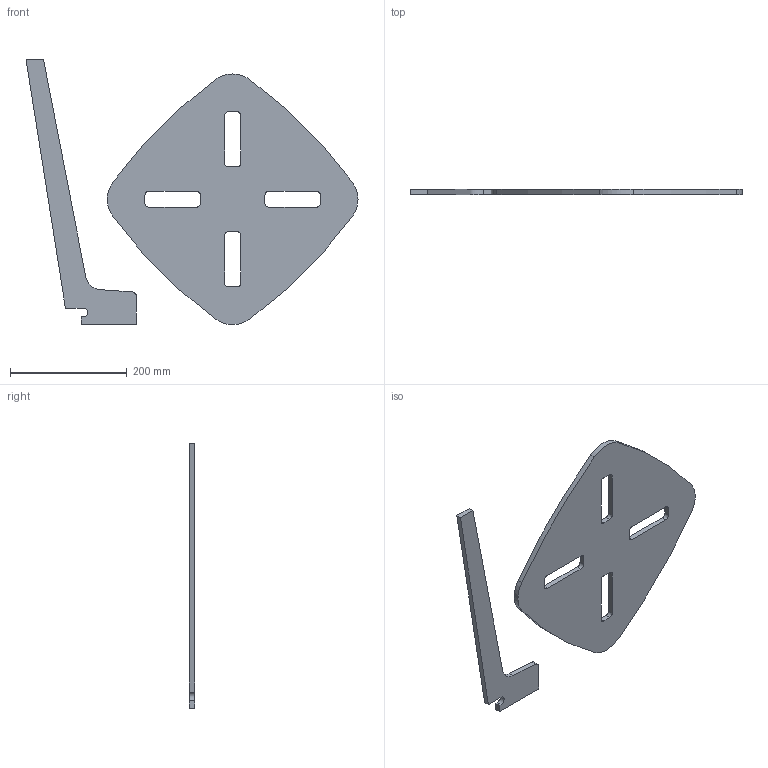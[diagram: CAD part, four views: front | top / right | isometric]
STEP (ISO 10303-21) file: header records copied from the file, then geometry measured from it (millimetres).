
FILE_DESCRIPTION (( 'STEP AP214' ), '1' );
FILE_NAME ('laser cut parts.STEP', '2019-10-24T14:36:10', ( '' ), ( '' ), 'SwSTEP 2.0', 'SolidWorks 2018', '' );
FILE_SCHEMA (( 'AUTOMOTIVE_DESIGN' ));
Length unit declared in the file: millimetre
Products named in the file (1): laser cut parts
Bounding box: 569.99 x 9 x 455.6 mm (x, y, z)
Volume: 1132645.7 mm3; surface area: 281797.2 mm2
Topology: 2 solids, 2 shells, 57 faces, 159 edges, 106 vertices
Faces by surface type: plane 29, cylinder 28
Entity records: 1908 total; most frequent: DIRECTION 331, CARTESIAN_POINT 323, ORIENTED_EDGE 318, EDGE_CURVE 159, AXIS2_PLACEMENT_3D 114, VERTEX_POINT 106, LINE 103, VECTOR 103
